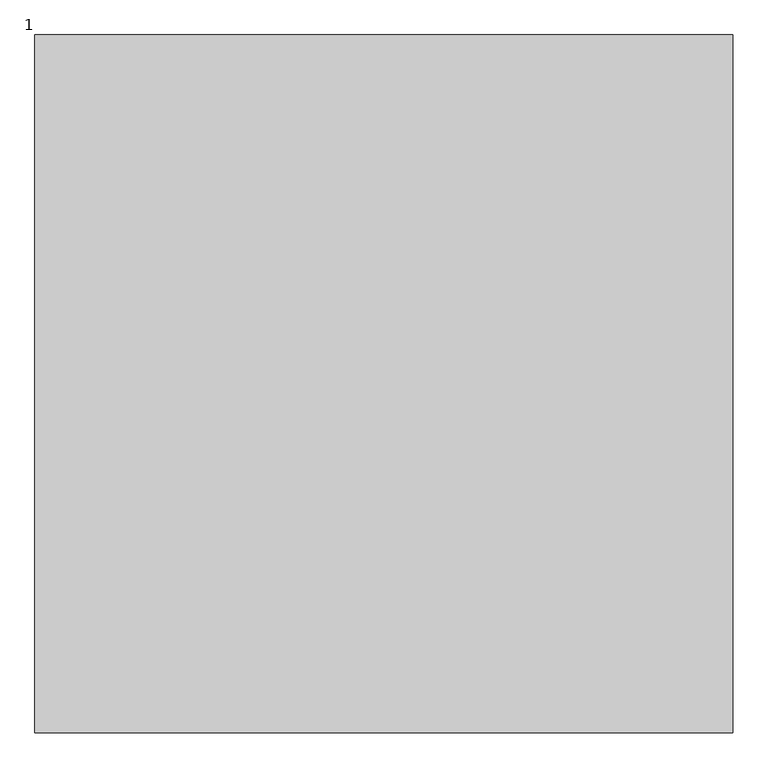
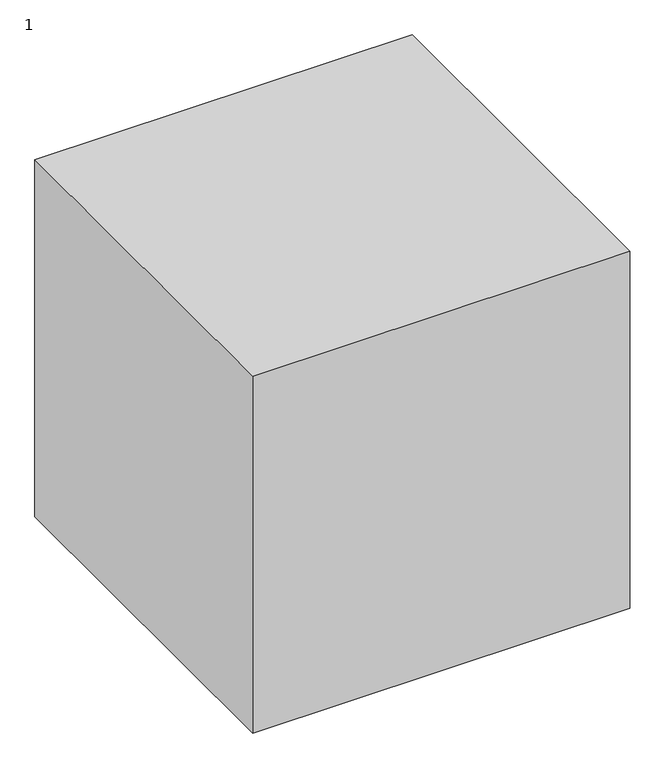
"""IFC4 building model written with IfcOpenShell, lengths in millimetres: proxy geometry, 122212111 : 1."""

from ifc_helpers import new_model, si_unit, origin, origin_with_axes, place, context, project, spatial, polyline, outline, extrude, source, transform, mapped, element, save


def proxy_1_a421b6c0(model_context):
    return source(origin(), model_context, "Body", "SweptSolid", [
        extrude(outline(polyline([(-8307.9756708, -4664.7705528), (-8307.9756708, -5664.7705528), (-9307.9756708, -5664.7705528), (-9307.9756708, -4664.7705528), (-8307.9756708, -4664.7705528)])), origin_with_axes(), (0.0, 0.0, 1.0), 1000.0),
    ])


if __name__ == "__main__":
    model = new_model("IFC4")
    model_context = context("Model", 3, world=origin())
    ifc_project = project(units=[si_unit("LENGTHUNIT", "METRE", prefix="MILLI")], contexts=[model_context])
    site = spatial("IfcSite", under=ifc_project)
    building = spatial("IfcBuilding", under=site)
    placement = place(None, origin())
    proxy_1_shape = proxy_1_a421b6c0(model_context)
    element("IfcBuildingElementProxy", 1, Name="122212111 : 1", ObjectType="122212111 : 1", at=placement, inside=building, context=model_context, shape_type="MappedRepresentation", body=[
        mapped(proxy_1_shape, transform((0.0, 0.0, 0.0), x_axis=(1.0, 0.0, 0.0), y_axis=(0.0, 1.0, 0.0), z_axis=(0.0, 0.0, 1.0))),
    ])
    save(model, "model.ifc")
